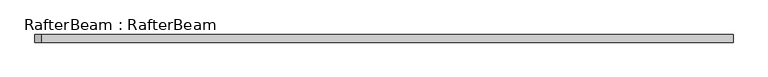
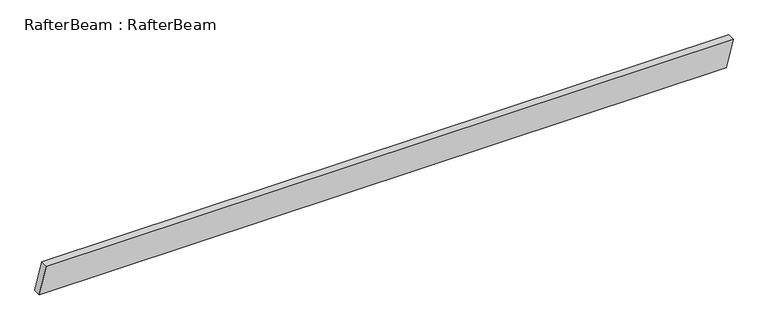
"""IFC4 building model written with IfcOpenShell, lengths in millimetres: beam geometry, RafterBeam : RafterBeam."""

from ifc_helpers import new_model, si_unit, frame, origin, place, context, project, spatial, polyline, outline, extrude, source, transform, mapped, element, save


def rafterbeam_rafterbeam_4c95af5d(model_context):
    return source(origin(), model_context, "Body", "SweptSolid", [
        extrude(outline(polyline([(-92.075, 2228.4994878), (92.075, 2274.5369878), (92.075, -2274.5369878), (-92.075, -2320.5744878), (-92.075, 2228.4994878)])), frame((0.0, -25.0, 0.0), z_axis=(0.0, 1.0, 0.0), x_axis=(0.0, 0.0, 1.0)), (0.0, 0.0, 1.0), 50.0),
    ])


if __name__ == "__main__":
    model = new_model("IFC4")
    model_context = context("Model", 3, world=origin())
    ifc_project = project(units=[si_unit("LENGTHUNIT", "METRE", prefix="MILLI")], contexts=[model_context])
    site = spatial("IfcSite", under=ifc_project)
    building = spatial("IfcBuilding", under=site)
    placement = place(None, origin())
    rafterbeam_rafterbeam_shape = rafterbeam_rafterbeam_4c95af5d(model_context)
    element("IfcBeam", 1, ObjectType="RafterBeam : RafterBeam", at=placement, inside=building, context=model_context, shape_type="MappedRepresentation", body=[
        mapped(rafterbeam_rafterbeam_shape, transform((0.0, 0.0, 0.0), x_axis=(1.0, 0.0, 0.0), y_axis=(0.0, 1.0, 0.0), z_axis=(0.0, 0.0, 1.0))),
    ])
    save(model, "model.ifc")
